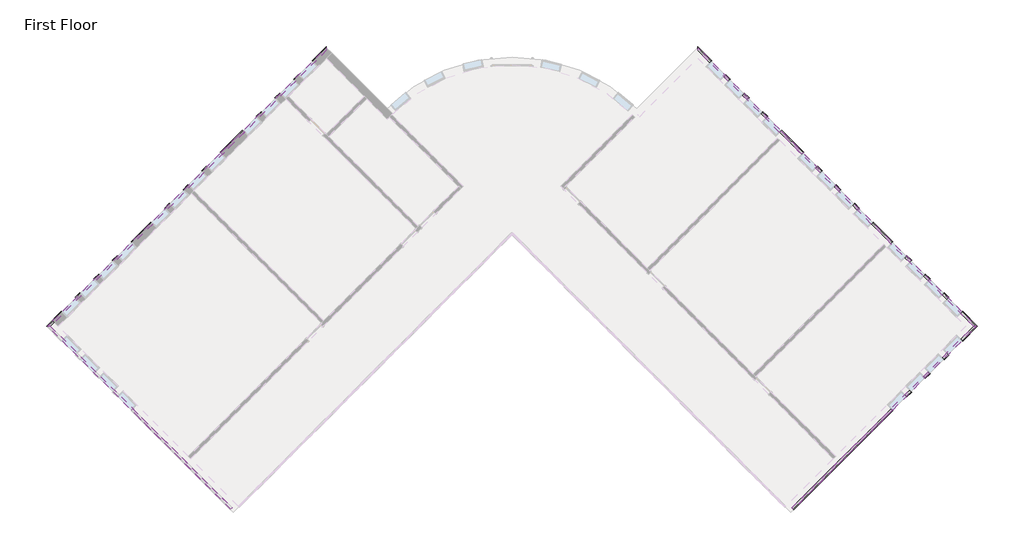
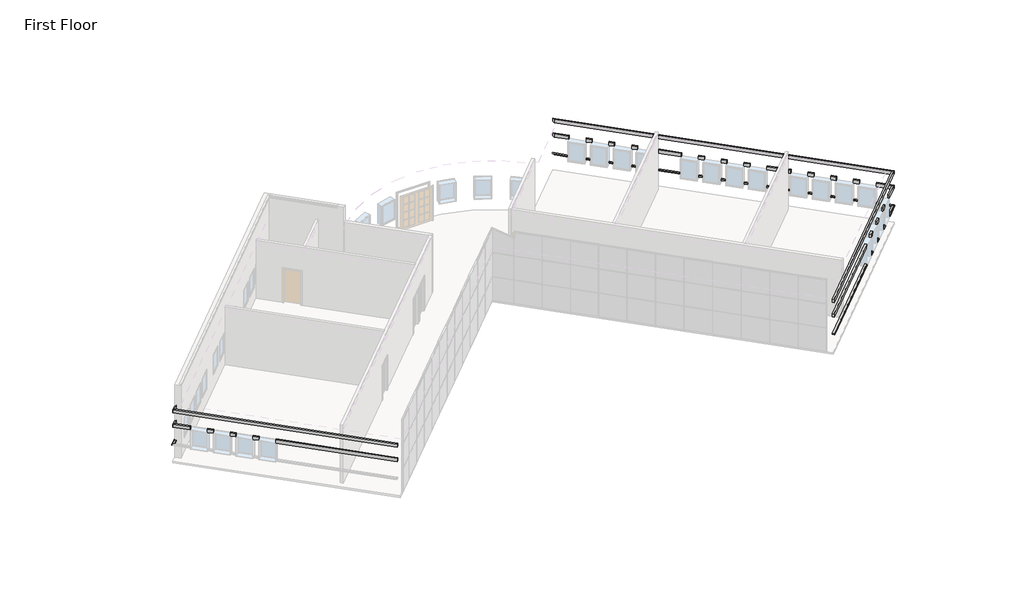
# One storey, part 5 of 5: 11 proxies.
"""IFC4 building model written with IfcOpenShell, lengths in millimetres."""

from ifc_helpers import new_model, si_unit, frame, origin, place, context, project, spatial, polyline, outline, extrude, faceted_brep, element, save

model = new_model("IFC4")

# Units and contexts
model_context = context("Model", 3, world=origin())
ifc_project = project(units=[si_unit("LENGTHUNIT", "METRE", prefix="MILLI")], contexts=[model_context])

# Site, building, storey
site = spatial("IfcSite", under=ifc_project)
building = spatial("IfcBuilding", under=site)
storey = spatial("IfcBuildingStorey", under=building, Name="First Floor", Elevation=0.0)

# Proxies
placement = place(None, origin())
element("IfcBuildingElementProxy", 1, Name="Wall Sweeps", at=placement, inside=storey, context=model_context, shape_type="Brep", body=[
    faceted_brep([(5753.0175119, 11443.3655905, 1085.85), (5753.0175119, 11573.5793042, 1085.85), (5753.0175119, 11622.9707129, 1041.4), (5753.0175119, 11622.9707129, 1016.0), (5753.0175119, 11443.3655905, 1016.0), (6317.415551, 10878.9675514, 1085.85), (6317.415551, 10878.9675514, 1016.0), (6382.5224079, 10944.0744083, 1016.0), (6407.2181122, 10968.7701126, 1016.0), (6407.2181122, 10968.7701126, 1041.4), (6382.5224079, 10944.0744083, 1085.85)], [[[0, 1, 2, 3, 4]], [[5, 6, 7, 8, 9, 10]], [[1, 0, 5, 10]], [[2, 1, 10, 9]], [[3, 2, 9, 8]], [[4, 3, 8, 7, 6]], [[0, 4, 6, 5]]]),
    faceted_brep([(6963.9939917, 10232.3891107, 1085.85), (7029.1008486, 10297.4959676, 1085.85), (7053.7965529, 10322.1916719, 1041.4), (7053.7965529, 10322.1916719, 1016.0), (7029.1008486, 10297.4959676, 1016.0), (6963.9939917, 10232.3891107, 1016.0), (7179.5201386, 10016.8629638, 1085.85), (7179.5201386, 10016.8629638, 1016.0), (7244.6269955, 10081.9698207, 1016.0), (7269.3226998, 10106.665525, 1016.0), (7269.3226998, 10106.665525, 1041.4), (7244.6269955, 10081.9698207, 1085.85)], [[[0, 1, 2, 3, 4, 5]], [[6, 7, 8, 9, 10, 11]], [[1, 0, 6, 11]], [[2, 1, 11, 10]], [[3, 2, 10, 9]], [[5, 4, 3, 9, 8, 7]], [[0, 5, 7, 6]]]),
    faceted_brep([(7826.0985793, 9370.2845231, 1085.85), (7891.2054362, 9435.39138, 1085.85), (7915.9011405, 9460.0870843, 1041.4), (7915.9011405, 9460.0870843, 1016.0), (7891.2054362, 9435.39138, 1016.0), (7826.0985793, 9370.2845231, 1016.0), (8041.6247262, 9154.7583762, 1085.85), (8041.6247262, 9154.7583762, 1016.0), (8106.7315831, 9219.8652331, 1016.0), (8131.4272874, 9244.5609374, 1016.0), (8131.4272874, 9244.5609374, 1041.4), (8106.7315831, 9219.8652331, 1085.85)], [[[0, 1, 2, 3, 4, 5]], [[6, 7, 8, 9, 10, 11]], [[1, 0, 6, 11]], [[2, 1, 11, 10]], [[3, 2, 10, 9]], [[5, 4, 3, 9, 8, 7]], [[0, 5, 7, 6]]]),
    faceted_brep([(8688.2031669, 8508.1799355, 1085.85), (8753.3100238, 8573.2867923, 1085.85), (8778.0057282, 8597.9824967, 1041.4), (8778.0057282, 8597.9824967, 1016.0), (8753.3100238, 8573.2867923, 1016.0), (8688.2031669, 8508.1799355, 1016.0), (8903.7293139, 8292.6537886, 1085.85), (8903.7293139, 8292.6537886, 1016.0), (8968.8361707, 8357.7606454, 1016.0), (8993.5318751, 8382.4563498, 1016.0), (8993.5318751, 8382.4563498, 1041.4), (8968.8361707, 8357.7606454, 1085.85)], [[[0, 1, 2, 3, 4, 5]], [[6, 7, 8, 9, 10, 11]], [[1, 0, 6, 11]], [[2, 1, 11, 10]], [[3, 2, 10, 9]], [[5, 4, 3, 9, 8, 7]], [[0, 5, 7, 6]]]),
    faceted_brep([(9550.3077546, 7646.0753478, 1085.85), (9615.4146114, 7711.1822047, 1085.85), (9640.1103158, 7735.877909, 1041.4), (9640.1103158, 7735.877909, 1016.0), (9615.4146114, 7711.1822047, 1016.0), (9550.3077546, 7646.0753478, 1016.0), (10574.7639411, 6621.6191613, 1085.85), (10574.7639411, 6621.6191613, 1016.0), (10639.870798, 6686.7260182, 1016.0), (10664.5665023, 6711.4217225, 1016.0), (10664.5665023, 6711.4217225, 1041.4), (10639.870798, 6686.7260182, 1085.85)], [[[0, 1, 2, 3, 4, 5]], [[6, 7, 8, 9, 10, 11]], [[1, 0, 6, 11]], [[2, 1, 11, 10]], [[3, 2, 10, 9]], [[5, 4, 3, 9, 8, 7]], [[0, 5, 7, 6]]]),
    faceted_brep([(11221.3423818, 5975.0407206, 1085.85), (11286.4492387, 6040.1475775, 1085.85), (11311.144943, 6064.8432818, 1041.4), (11311.144943, 6064.8432818, 1016.0), (11286.4492387, 6040.1475775, 1016.0), (11221.3423818, 5975.0407206, 1016.0), (11436.8685287, 5759.5145737, 1085.85), (11436.8685287, 5759.5145737, 1016.0), (11501.9753856, 5824.6214306, 1016.0), (11526.6710899, 5849.3171349, 1016.0), (11526.6710899, 5849.3171349, 1041.4), (11501.9753856, 5824.6214306, 1085.85)], [[[0, 1, 2, 3, 4, 5]], [[6, 7, 8, 9, 10, 11]], [[1, 0, 6, 11]], [[2, 1, 11, 10]], [[3, 2, 10, 9]], [[5, 4, 3, 9, 8, 7]], [[0, 5, 7, 6]]]),
    faceted_brep([(12083.4469694, 5112.936133, 1085.85), (12148.5538263, 5178.0429899, 1085.85), (12173.2495306, 5202.7386942, 1041.4), (12173.2495306, 5202.7386942, 1016.0), (12148.5538263, 5178.0429899, 1016.0), (12083.4469694, 5112.936133, 1016.0), (12298.9731163, 4897.4099861, 1085.85), (12298.9731163, 4897.4099861, 1016.0), (12364.0799732, 4962.516843, 1016.0), (12388.7756775, 4987.2125473, 1016.0), (12388.7756775, 4987.2125473, 1041.4), (12364.0799732, 4962.516843, 1085.85)], [[[0, 1, 2, 3, 4, 5]], [[6, 7, 8, 9, 10, 11]], [[1, 0, 6, 11]], [[2, 1, 11, 10]], [[3, 2, 10, 9]], [[5, 4, 3, 9, 8, 7]], [[0, 5, 7, 6]]]),
    faceted_brep([(12945.551557, 4250.8315454, 1085.85), (13010.6584139, 4315.9384023, 1085.85), (13035.3541182, 4340.6341066, 1041.4), (13035.3541182, 4340.6341066, 1016.0), (13010.6584139, 4315.9384023, 1016.0), (12945.551557, 4250.8315454, 1016.0), (13161.0777039, 4035.3053985, 1085.85), (13161.0777039, 4035.3053985, 1016.0), (13226.1845608, 4100.4122553, 1016.0), (13250.8802652, 4125.1079597, 1016.0), (13250.8802652, 4125.1079597, 1041.4), (13226.1845608, 4100.4122553, 1085.85)], [[[0, 1, 2, 3, 4, 5]], [[6, 7, 8, 9, 10, 11]], [[1, 0, 6, 11]], [[2, 1, 11, 10]], [[3, 2, 10, 9]], [[5, 4, 3, 9, 8, 7]], [[0, 5, 7, 6]]]),
    faceted_brep([(13807.6561447, 3388.7269578, 1085.85), (13872.7630015, 3453.8338146, 1085.85), (13897.4587059, 3478.529519, 1041.4), (13897.4587059, 3478.529519, 1016.0), (13872.7630015, 3453.8338146, 1016.0), (13807.6561447, 3388.7269578, 1016.0), (14723.1708449, 2473.2122576, 1085.85), (14723.1708449, 2473.2122576, 1016.0), (14788.2777017, 2538.3191144, 1016.0), (14812.9734061, 2563.0148188, 1016.0), (14812.9734061, 2563.0148188, 1041.4), (14788.2777017, 2538.3191144, 1085.85)], [[[0, 1, 2, 3, 4, 5]], [[6, 7, 8, 9, 10, 11]], [[1, 0, 6, 11]], [[2, 1, 11, 10]], [[3, 2, 10, 9]], [[5, 4, 3, 9, 8, 7]], [[0, 5, 7, 6]]]),
    faceted_brep([(15369.7492856, 1826.6338168, 1085.85), (15434.8561424, 1891.7406737, 1085.85), (15459.5518468, 1916.4363781, 1041.4), (15459.5518468, 1916.4363781, 1016.0), (15434.8561424, 1891.7406737, 1016.0), (15369.7492856, 1826.6338168, 1016.0), (15585.2754325, 1611.1076699, 1085.85), (15585.2754325, 1611.1076699, 1016.0), (15650.3822894, 1676.2145268, 1016.0), (15675.0779937, 1700.9102311, 1016.0), (15675.0779937, 1700.9102311, 1041.4), (15650.3822894, 1676.2145268, 1085.85)], [[[0, 1, 2, 3, 4, 5]], [[6, 7, 8, 9, 10, 11]], [[1, 0, 6, 11]], [[2, 1, 11, 10]], [[3, 2, 10, 9]], [[5, 4, 3, 9, 8, 7]], [[0, 5, 7, 6]]]),
    faceted_brep([(16231.8538732, 964.5292292, 1085.85), (16296.9607301, 1029.6360861, 1085.85), (16321.6564344, 1054.3317904, 1041.4), (16321.6564344, 1054.3317904, 1016.0), (16296.9607301, 1029.6360861, 1016.0), (16231.8538732, 964.5292292, 1016.0), (16447.3800201, 749.0030823, 1085.85), (16447.3800201, 749.0030823, 1016.0), (16512.486877, 814.1099392, 1016.0), (16537.1825813, 838.8056435, 1016.0), (16537.1825813, 838.8056435, 1041.4), (16512.486877, 814.1099392, 1085.85)], [[[0, 1, 2, 3, 4, 5]], [[6, 7, 8, 9, 10, 11]], [[1, 0, 6, 11]], [[2, 1, 11, 10]], [[3, 2, 10, 9]], [[5, 4, 3, 9, 8, 7]], [[0, 5, 7, 6]]]),
    faceted_brep([(17093.9584608, 102.4246416, 1085.85), (17159.0653177, 167.5314985, 1085.85), (17183.761022, 192.2272028, 1041.4), (17183.761022, 192.2272028, 1016.0), (17159.0653177, 167.5314985, 1016.0), (17093.9584608, 102.4246416, 1016.0), (17309.4846077, -113.1015053, 1085.85), (17309.4846077, -113.1015053, 1016.0), (17374.5914646, -47.9946484, 1016.0), (17399.2871689, -23.2989441, 1016.0), (17399.2871689, -23.2989441, 1041.4), (17374.5914646, -47.9946484, 1085.85)], [[[0, 1, 2, 3, 4, 5]], [[6, 7, 8, 9, 10, 11]], [[1, 0, 6, 11]], [[2, 1, 11, 10]], [[3, 2, 10, 9]], [[5, 4, 3, 9, 8, 7]], [[0, 5, 7, 6]]]),
    faceted_brep([(17956.0630484, -759.679946, 1085.85), (18021.1699053, -694.5730891, 1085.85), (18045.8656096, -669.8773848, 1041.4), (18045.8656096, -669.8773848, 1016.0), (18021.1699053, -694.5730891, 1016.0), (17956.0630484, -759.679946, 1016.0), (18554.3726125, -1357.9895101, 1085.85), (18554.3726125, -1357.9895101, 1016.0), (18733.9777349, -1357.9895101, 1016.0), (18733.9777349, -1357.9895101, 1041.4), (18684.5863263, -1357.9895101, 1085.85)], [[[0, 1, 2, 3, 4, 5]], [[6, 7, 8, 9, 10]], [[1, 0, 6, 10]], [[2, 1, 10, 9]], [[3, 2, 9, 8]], [[5, 4, 3, 8, 7]], [[0, 5, 7, 6]]]),
])
element("IfcBuildingElementProxy", 2, Name="Wall Sweeps", at=placement, inside=storey, context=model_context, shape_type="Brep", body=[
    faceted_brep([(5753.0175119, 11573.5793042, 2336.8), (5753.0175119, 11573.5793042, 2133.6), (5753.0175119, 11443.3655905, 2133.6), (5753.0175119, 11443.3655905, 2336.8), (6382.5224079, 10944.0744083, 2336.8), (6317.415551, 10878.9675514, 2336.8), (6317.415551, 10878.9675514, 2133.6), (6382.5224079, 10944.0744083, 2133.6), (6002.2196193, 11324.3771969, 2336.8), (6002.2196193, 11324.3771969, 2133.6)], [[[0, 1, 2, 3]], [[4, 5, 6, 7]], [[1, 0, 8, 4, 7, 9]], [[2, 1, 9, 7, 6]], [[3, 2, 6, 5]], [[0, 3, 5, 4, 8]]]),
    faceted_brep([(7029.1008486, 10297.4959676, 2336.8), (7029.1008486, 10297.4959676, 2133.6), (6963.9939917, 10232.3891107, 2133.6), (6963.9939917, 10232.3891107, 2336.8), (7244.6269955, 10081.9698207, 2336.8), (7179.5201386, 10016.8629638, 2336.8), (7179.5201386, 10016.8629638, 2133.6), (7244.6269955, 10081.9698207, 2133.6)], [[[0, 1, 2, 3]], [[4, 5, 6, 7]], [[1, 0, 4, 7]], [[2, 1, 7, 6]], [[3, 2, 6, 5]], [[0, 3, 5, 4]]]),
    faceted_brep([(7891.2054362, 9435.39138, 2336.8), (7891.2054362, 9435.39138, 2133.6), (7826.0985793, 9370.2845231, 2133.6), (7826.0985793, 9370.2845231, 2336.8), (8106.7315831, 9219.8652331, 2336.8), (8041.6247262, 9154.7583762, 2336.8), (8041.6247262, 9154.7583762, 2133.6), (8106.7315831, 9219.8652331, 2133.6)], [[[0, 1, 2, 3]], [[4, 5, 6, 7]], [[1, 0, 4, 7]], [[2, 1, 7, 6]], [[3, 2, 6, 5]], [[0, 3, 5, 4]]]),
    faceted_brep([(8753.3100238, 8573.2867923, 2336.8), (8753.3100238, 8573.2867923, 2133.6), (8688.2031669, 8508.1799355, 2133.6), (8688.2031669, 8508.1799355, 2336.8), (8968.8361707, 8357.7606454, 2336.8), (8903.7293139, 8292.6537886, 2336.8), (8903.7293139, 8292.6537886, 2133.6), (8968.8361707, 8357.7606454, 2133.6)], [[[0, 1, 2, 3]], [[4, 5, 6, 7]], [[1, 0, 4, 7]], [[2, 1, 7, 6]], [[3, 2, 6, 5]], [[0, 3, 5, 4]]]),
    faceted_brep([(9615.4146114, 7711.1822047, 2336.8), (9615.4146114, 7711.1822047, 2133.6), (9550.3077546, 7646.0753478, 2133.6), (9550.3077546, 7646.0753478, 2336.8), (10639.870798, 6686.7260182, 2336.8), (10574.7639411, 6621.6191613, 2336.8), (10574.7639411, 6621.6191613, 2133.6), (10639.870798, 6686.7260182, 2133.6)], [[[0, 1, 2, 3]], [[4, 5, 6, 7]], [[1, 0, 4, 7]], [[2, 1, 7, 6]], [[3, 2, 6, 5]], [[0, 3, 5, 4]]]),
    faceted_brep([(11286.4492387, 6040.1475775, 2336.8), (11286.4492387, 6040.1475775, 2133.6), (11221.3423818, 5975.0407206, 2133.6), (11221.3423818, 5975.0407206, 2336.8), (11501.9753856, 5824.6214306, 2336.8), (11436.8685287, 5759.5145737, 2336.8), (11436.8685287, 5759.5145737, 2133.6), (11501.9753856, 5824.6214306, 2133.6)], [[[0, 1, 2, 3]], [[4, 5, 6, 7]], [[1, 0, 4, 7]], [[2, 1, 7, 6]], [[3, 2, 6, 5]], [[0, 3, 5, 4]]]),
    faceted_brep([(12148.5538263, 5178.0429899, 2336.8), (12148.5538263, 5178.0429899, 2133.6), (12083.4469694, 5112.936133, 2133.6), (12083.4469694, 5112.936133, 2336.8), (12364.0799732, 4962.516843, 2336.8), (12298.9731163, 4897.4099861, 2336.8), (12298.9731163, 4897.4099861, 2133.6), (12364.0799732, 4962.516843, 2133.6)], [[[0, 1, 2, 3]], [[4, 5, 6, 7]], [[1, 0, 4, 7]], [[2, 1, 7, 6]], [[3, 2, 6, 5]], [[0, 3, 5, 4]]]),
    faceted_brep([(13010.6584139, 4315.9384023, 2336.8), (13010.6584139, 4315.9384023, 2133.6), (12945.551557, 4250.8315454, 2133.6), (12945.551557, 4250.8315454, 2336.8), (13226.1845608, 4100.4122553, 2336.8), (13161.0777039, 4035.3053985, 2336.8), (13161.0777039, 4035.3053985, 2133.6), (13226.1845608, 4100.4122553, 2133.6)], [[[0, 1, 2, 3]], [[4, 5, 6, 7]], [[1, 0, 4, 7]], [[2, 1, 7, 6]], [[3, 2, 6, 5]], [[0, 3, 5, 4]]]),
    faceted_brep([(13872.7630015, 3453.8338146, 2336.8), (13872.7630015, 3453.8338146, 2133.6), (13807.6561447, 3388.7269578, 2133.6), (13807.6561447, 3388.7269578, 2336.8), (14788.2777017, 2538.3191144, 2336.8), (14723.1708449, 2473.2122576, 2336.8), (14723.1708449, 2473.2122576, 2133.6), (14788.2777017, 2538.3191144, 2133.6)], [[[0, 1, 2, 3]], [[4, 5, 6, 7]], [[1, 0, 4, 7]], [[2, 1, 7, 6]], [[3, 2, 6, 5]], [[0, 3, 5, 4]]]),
    faceted_brep([(15434.8561424, 1891.7406737, 2336.8), (15434.8561424, 1891.7406737, 2133.6), (15369.7492856, 1826.6338168, 2133.6), (15369.7492856, 1826.6338168, 2336.8), (15650.3822894, 1676.2145268, 2336.8), (15585.2754325, 1611.1076699, 2336.8), (15585.2754325, 1611.1076699, 2133.6), (15650.3822894, 1676.2145268, 2133.6)], [[[0, 1, 2, 3]], [[4, 5, 6, 7]], [[1, 0, 4, 7]], [[2, 1, 7, 6]], [[3, 2, 6, 5]], [[0, 3, 5, 4]]]),
    faceted_brep([(16296.9607301, 1029.6360861, 2336.8), (16296.9607301, 1029.6360861, 2133.6), (16231.8538732, 964.5292292, 2133.6), (16231.8538732, 964.5292292, 2336.8), (16512.486877, 814.1099392, 2336.8), (16447.3800201, 749.0030823, 2336.8), (16447.3800201, 749.0030823, 2133.6), (16512.486877, 814.1099392, 2133.6)], [[[0, 1, 2, 3]], [[4, 5, 6, 7]], [[1, 0, 4, 7]], [[2, 1, 7, 6]], [[3, 2, 6, 5]], [[0, 3, 5, 4]]]),
    faceted_brep([(17159.0653177, 167.5314985, 2336.8), (17159.0653177, 167.5314985, 2133.6), (17093.9584608, 102.4246416, 2133.6), (17093.9584608, 102.4246416, 2336.8), (17374.5914646, -47.9946484, 2336.8), (17309.4846077, -113.1015053, 2336.8), (17309.4846077, -113.1015053, 2133.6), (17374.5914646, -47.9946484, 2133.6)], [[[0, 1, 2, 3]], [[4, 5, 6, 7]], [[1, 0, 4, 7]], [[2, 1, 7, 6]], [[3, 2, 6, 5]], [[0, 3, 5, 4]]]),
    faceted_brep([(18021.1699053, -694.5730891, 2336.8), (18021.1699053, -694.5730891, 2133.6), (17956.0630484, -759.679946, 2133.6), (17956.0630484, -759.679946, 2336.8), (18684.5863263, -1357.9895101, 2336.8), (18554.3726125, -1357.9895101, 2336.8), (18554.3726125, -1357.9895101, 2133.6), (18684.5863263, -1357.9895101, 2133.6)], [[[0, 1, 2, 3]], [[4, 5, 6, 7]], [[1, 0, 4, 7]], [[2, 1, 7, 6]], [[3, 2, 6, 5]], [[0, 3, 5, 4]]]),
])
element("IfcBuildingElementProxy", 3, Name="Wall Sweeps", at=placement, inside=storey, context=model_context, shape_type="Brep", body=[
    faceted_brep([(5753.0175119, 11573.5793042, 3251.2), (5753.0175119, 11573.5793042, 3048.0), (5753.0175119, 11443.3655905, 3048.0), (5753.0175119, 11443.3655905, 3251.2), (18684.5863263, -1357.9895101, 3251.2), (18554.3726125, -1357.9895101, 3251.2), (18554.3726125, -1357.9895101, 3048.0), (18684.5863263, -1357.9895101, 3048.0), (6002.2196193, 11324.3771969, 3251.2), (6002.2196193, 11324.3771969, 3048.0)], [[[0, 1, 2, 3]], [[4, 5, 6, 7]], [[1, 0, 8, 4, 7, 9]], [[2, 1, 9, 7, 6]], [[3, 2, 6, 5]], [[0, 3, 5, 4, 8]]]),
])
element("IfcBuildingElementProxy", 4, Name="Wall Sweeps", at=placement, inside=storey, context=model_context, shape_type="Brep", body=[
    faceted_brep([(18554.3726125, -1357.9895101, 1085.85), (18684.5863263, -1357.9895101, 1085.85), (18733.9777349, -1357.9895101, 1041.4), (18733.9777349, -1357.9895101, 1016.0), (18554.3726125, -1357.9895101, 1016.0), (17956.0630484, -1956.2990742, 1085.85), (17956.0630484, -1956.2990742, 1016.0), (18021.1699053, -2021.405931, 1016.0), (18045.8656096, -2046.1016354, 1016.0), (18045.8656096, -2046.1016354, 1041.4), (18021.1699053, -2021.405931, 1085.85)], [[[0, 1, 2, 3, 4]], [[5, 6, 7, 8, 9, 10]], [[1, 0, 5, 10]], [[2, 1, 10, 9]], [[3, 2, 9, 8]], [[4, 3, 8, 7, 6]], [[0, 4, 6, 5]]]),
    faceted_brep([(17309.4846077, -2602.8775149, 1085.85), (17374.5914646, -2667.9843718, 1085.85), (17399.2871689, -2692.6800761, 1041.4), (17399.2871689, -2692.6800761, 1016.0), (17374.5914646, -2667.9843718, 1016.0), (17309.4846077, -2602.8775149, 1016.0), (17093.9584608, -2818.4036618, 1085.85), (17093.9584608, -2818.4036618, 1016.0), (17159.0653177, -2883.5105187, 1016.0), (17183.761022, -2908.206223, 1016.0), (17183.761022, -2908.206223, 1041.4), (17159.0653177, -2883.5105187, 1085.85)], [[[0, 1, 2, 3, 4, 5]], [[6, 7, 8, 9, 10, 11]], [[1, 0, 6, 11]], [[2, 1, 11, 10]], [[3, 2, 10, 9]], [[5, 4, 3, 9, 8, 7]], [[0, 5, 7, 6]]]),
    faceted_brep([(16447.3800201, -3464.9821025, 1085.85), (16512.486877, -3530.0889594, 1085.85), (16537.1825813, -3554.7846637, 1041.4), (16537.1825813, -3554.7846637, 1016.0), (16512.486877, -3530.0889594, 1016.0), (16447.3800201, -3464.9821025, 1016.0), (16231.8538732, -3680.5082494, 1085.85), (16231.8538732, -3680.5082494, 1016.0), (16296.9607301, -3745.6151063, 1016.0), (16321.6564344, -3770.3108106, 1016.0), (16321.6564344, -3770.3108106, 1041.4), (16296.9607301, -3745.6151063, 1085.85)], [[[0, 1, 2, 3, 4, 5]], [[6, 7, 8, 9, 10, 11]], [[1, 0, 6, 11]], [[2, 1, 11, 10]], [[3, 2, 10, 9]], [[5, 4, 3, 9, 8, 7]], [[0, 5, 7, 6]]]),
    faceted_brep([(15585.2754325, -4327.0866901, 1085.85), (15650.3822894, -4392.193547, 1085.85), (15675.0779937, -4416.8892513, 1041.4), (15675.0779937, -4416.8892513, 1016.0), (15650.3822894, -4392.193547, 1016.0), (15585.2754325, -4327.0866901, 1016.0), (15369.7492856, -4542.612837, 1085.85), (15369.7492856, -4542.612837, 1016.0), (15434.8561424, -4607.7196939, 1016.0), (15459.5518468, -4632.4153982, 1016.0), (15459.5518468, -4632.4153982, 1041.4), (15434.8561424, -4607.7196939, 1085.85)], [[[0, 1, 2, 3, 4, 5]], [[6, 7, 8, 9, 10, 11]], [[1, 0, 6, 11]], [[2, 1, 11, 10]], [[3, 2, 10, 9]], [[5, 4, 3, 9, 8, 7]], [[0, 5, 7, 6]]]),
    faceted_brep([(14723.1708449, -5189.1912777, 1085.85), (14788.2777017, -5254.2981346, 1085.85), (14812.9734061, -5278.993839, 1041.4), (14812.9734061, -5278.993839, 1016.0), (14788.2777017, -5254.2981346, 1016.0), (14723.1708449, -5189.1912777, 1016.0), (10123.0346468, -9789.3274758, 1085.85), (10123.0346468, -9789.3274758, 1016.0), (10188.1415037, -9854.4343326, 1016.0), (10212.837208, -9879.130037, 1016.0), (10212.837208, -9879.130037, 1041.4), (10188.1415037, -9854.4343326, 1085.85)], [[[0, 1, 2, 3, 4, 5]], [[6, 7, 8, 9, 10, 11]], [[1, 0, 6, 11]], [[2, 1, 11, 10]], [[3, 2, 10, 9]], [[5, 4, 3, 9, 8, 7]], [[0, 5, 7, 6]]]),
])
element("IfcBuildingElementProxy", 5, Name="Wall Sweeps", at=placement, inside=storey, context=model_context, shape_type="Brep", body=[
    faceted_brep([(18684.5863263, -1357.9895101, 2336.8), (18684.5863263, -1357.9895101, 2133.6), (18554.3726125, -1357.9895101, 2133.6), (18554.3726125, -1357.9895101, 2336.8), (18021.1699053, -2021.405931, 2336.8), (17956.0630484, -1956.2990742, 2336.8), (17956.0630484, -1956.2990742, 2133.6), (18021.1699053, -2021.405931, 2133.6), (18435.3842189, -1607.1916175, 2336.8), (18435.3842189, -1607.1916175, 2133.6)], [[[0, 1, 2, 3]], [[4, 5, 6, 7]], [[1, 0, 8, 4, 7, 9]], [[2, 1, 9, 7, 6]], [[3, 2, 6, 5]], [[0, 3, 5, 4, 8]]]),
    faceted_brep([(17374.5914646, -2667.9843718, 2336.8), (17374.5914646, -2667.9843718, 2133.6), (17309.4846077, -2602.8775149, 2133.6), (17309.4846077, -2602.8775149, 2336.8), (17159.0653177, -2883.5105187, 2336.8), (17093.9584608, -2818.4036618, 2336.8), (17093.9584608, -2818.4036618, 2133.6), (17159.0653177, -2883.5105187, 2133.6)], [[[0, 1, 2, 3]], [[4, 5, 6, 7]], [[1, 0, 4, 7]], [[2, 1, 7, 6]], [[3, 2, 6, 5]], [[0, 3, 5, 4]]]),
    faceted_brep([(16512.486877, -3530.0889594, 2336.8), (16512.486877, -3530.0889594, 2133.6), (16447.3800201, -3464.9821025, 2133.6), (16447.3800201, -3464.9821025, 2336.8), (16296.9607301, -3745.6151063, 2336.8), (16231.8538732, -3680.5082494, 2336.8), (16231.8538732, -3680.5082494, 2133.6), (16296.9607301, -3745.6151063, 2133.6)], [[[0, 1, 2, 3]], [[4, 5, 6, 7]], [[1, 0, 4, 7]], [[2, 1, 7, 6]], [[3, 2, 6, 5]], [[0, 3, 5, 4]]]),
    faceted_brep([(15650.3822894, -4392.193547, 2336.8), (15650.3822894, -4392.193547, 2133.6), (15585.2754325, -4327.0866901, 2133.6), (15585.2754325, -4327.0866901, 2336.8), (15434.8561424, -4607.7196939, 2336.8), (15369.7492856, -4542.612837, 2336.8), (15369.7492856, -4542.612837, 2133.6), (15434.8561424, -4607.7196939, 2133.6)], [[[0, 1, 2, 3]], [[4, 5, 6, 7]], [[1, 0, 4, 7]], [[2, 1, 7, 6]], [[3, 2, 6, 5]], [[0, 3, 5, 4]]]),
    faceted_brep([(14788.2777017, -5254.2981346, 2336.8), (14788.2777017, -5254.2981346, 2133.6), (14723.1708449, -5189.1912777, 2133.6), (14723.1708449, -5189.1912777, 2336.8), (10188.1415037, -9854.4343326, 2336.8), (10123.0346468, -9789.3274758, 2336.8), (10123.0346468, -9789.3274758, 2133.6), (10188.1415037, -9854.4343326, 2133.6)], [[[0, 1, 2, 3]], [[4, 5, 6, 7]], [[1, 0, 4, 7]], [[2, 1, 7, 6]], [[3, 2, 6, 5]], [[0, 3, 5, 4]]]),
])
element("IfcBuildingElementProxy", 6, Name="Wall Sweeps", at=placement, inside=storey, context=model_context, shape_type="Brep", body=[
    faceted_brep([(18684.5863263, -1357.9895101, 3251.2), (18684.5863263, -1357.9895101, 3048.0), (18554.3726125, -1357.9895101, 3048.0), (18554.3726125, -1357.9895101, 3251.2), (10188.1415037, -9854.4343326, 3251.2), (10123.0346468, -9789.3274758, 3251.2), (10123.0346468, -9789.3274758, 3048.0), (10188.1415037, -9854.4343326, 3048.0), (18435.3842189, -1607.1916175, 3251.2), (18435.3842189, -1607.1916175, 3048.0)], [[[0, 1, 2, 3]], [[4, 5, 6, 7]], [[1, 0, 8, 4, 7, 9]], [[2, 1, 9, 7, 6]], [[3, 2, 6, 5]], [[0, 3, 5, 4, 8]]]),
])
element("IfcBuildingElementProxy", 7, Name="Wall Sweeps", at=placement, inside=storey, context=model_context, shape_type="SweptSolid", body=[
    extrude(outline(polyline([(-15859.0913754, -9789.3274758), (-15924.1982323, -9854.4343326), (-20524.3344303, -5254.2981346), (-20459.2275735, -5189.1912777), (-15859.0913754, -9789.3274758)])), frame((0.0, 0.0, 2133.6), z_axis=(0.0, 0.0, 1.0), x_axis=(1.0, 0.0, 0.0)), (0.0, 0.0, 1.0), 203.2),
    extrude(outline(polyline([(-21105.8060142, -4542.612837), (-21170.9128711, -4607.7196939), (-21386.439018, -4392.193547), (-21321.3321611, -4327.0866901), (-21105.8060142, -4542.612837)])), frame((0.0, 0.0, 2133.6), z_axis=(0.0, 0.0, 1.0), x_axis=(1.0, 0.0, 0.0)), (0.0, 0.0, 1.0), 203.2),
    extrude(outline(polyline([(-21967.9106018, -3680.5082494), (-22033.0174587, -3745.6151063), (-22248.5436056, -3530.0889594), (-22183.4367487, -3464.9821025), (-21967.9106018, -3680.5082494)])), frame((0.0, 0.0, 2133.6), z_axis=(0.0, 0.0, 1.0), x_axis=(1.0, 0.0, 0.0)), (0.0, 0.0, 1.0), 203.2),
    extrude(outline(polyline([(-22830.0151894, -2818.4036618), (-22895.1220463, -2883.5105187), (-23110.6481932, -2667.9843718), (-23045.5413363, -2602.8775149), (-22830.0151894, -2818.4036618)])), frame((0.0, 0.0, 2133.6), z_axis=(0.0, 0.0, 1.0), x_axis=(1.0, 0.0, 0.0)), (0.0, 0.0, 1.0), 203.2),
    extrude(outline(polyline([(-23692.119777, -1956.2990742), (-23757.2266339, -2021.405931), (-24420.6430549, -1357.9895101), (-24290.4293411, -1357.9895101), (-23692.119777, -1956.2990742)])), frame((0.0, 0.0, 2133.6), z_axis=(0.0, 0.0, 1.0), x_axis=(1.0, 0.0, 0.0)), (0.0, 0.0, 1.0), 203.2),
])
element("IfcBuildingElementProxy", 8, Name="Wall Sweeps", at=placement, inside=storey, context=model_context, shape_type="SweptSolid", body=[
    extrude(outline(polyline([(-15859.0913754, -9789.3274758), (-15924.1982323, -9854.4343326), (-24420.6430549, -1357.9895101), (-24290.4293411, -1357.9895101), (-15859.0913754, -9789.3274758)])), frame((0.0, 0.0, 3048.0), z_axis=(0.0, 0.0, 1.0), x_axis=(1.0, 0.0, 0.0)), (0.0, 0.0, 1.0), 203.2),
])
element("IfcBuildingElementProxy", 9, Name="Wall Sweeps", at=placement, inside=storey, context=model_context, shape_type="Brep", body=[
    faceted_brep([(-24290.4293411, -1357.9895101, 1085.85), (-24420.6430549, -1357.9895101, 1085.85), (-24470.0344635, -1357.9895101, 1041.4), (-24470.0344635, -1357.9895101, 1016.0), (-24290.4293411, -1357.9895101, 1016.0), (-23692.119777, -759.679946, 1085.85), (-23692.119777, -759.679946, 1016.0), (-23757.2266339, -694.5730891, 1016.0), (-23781.9223383, -669.8773848, 1016.0), (-23781.9223383, -669.8773848, 1041.4), (-23757.2266339, -694.5730891, 1085.85)], [[[0, 1, 2, 3, 4]], [[5, 6, 7, 8, 9, 10]], [[1, 0, 5, 10]], [[2, 1, 10, 9]], [[3, 2, 9, 8]], [[4, 3, 8, 7, 6]], [[0, 4, 6, 5]]]),
    faceted_brep([(-23045.5413363, -113.1015053, 1085.85), (-23110.6481932, -47.9946484, 1085.85), (-23135.3438975, -23.2989441, 1041.4), (-23135.3438975, -23.2989441, 1016.0), (-23110.6481932, -47.9946484, 1016.0), (-23045.5413363, -113.1015053, 1016.0), (-22830.0151894, 102.4246416, 1085.85), (-22830.0151894, 102.4246416, 1016.0), (-22895.1220463, 167.5314985, 1016.0), (-22919.8177506, 192.2272028, 1016.0), (-22919.8177506, 192.2272028, 1041.4), (-22895.1220463, 167.5314985, 1085.85)], [[[0, 1, 2, 3, 4, 5]], [[6, 7, 8, 9, 10, 11]], [[1, 0, 6, 11]], [[2, 1, 11, 10]], [[3, 2, 10, 9]], [[5, 4, 3, 9, 8, 7]], [[0, 5, 7, 6]]]),
    faceted_brep([(-22183.4367487, 749.0030823, 1085.85), (-22248.5436056, 814.1099392, 1085.85), (-22273.2393099, 838.8056435, 1041.4), (-22273.2393099, 838.8056435, 1016.0), (-22248.5436056, 814.1099392, 1016.0), (-22183.4367487, 749.0030823, 1016.0), (-21967.9106018, 964.5292292, 1085.85), (-21967.9106018, 964.5292292, 1016.0), (-22033.0174587, 1029.6360861, 1016.0), (-22057.713163, 1054.3317904, 1016.0), (-22057.713163, 1054.3317904, 1041.4), (-22033.0174587, 1029.6360861, 1085.85)], [[[0, 1, 2, 3, 4, 5]], [[6, 7, 8, 9, 10, 11]], [[1, 0, 6, 11]], [[2, 1, 11, 10]], [[3, 2, 10, 9]], [[5, 4, 3, 9, 8, 7]], [[0, 5, 7, 6]]]),
    faceted_brep([(-21321.3321611, 1611.1076699, 1085.85), (-21386.439018, 1676.2145268, 1085.85), (-21411.1347223, 1700.9102311, 1041.4), (-21411.1347223, 1700.9102311, 1016.0), (-21386.439018, 1676.2145268, 1016.0), (-21321.3321611, 1611.1076699, 1016.0), (-21105.8060142, 1826.6338168, 1085.85), (-21105.8060142, 1826.6338168, 1016.0), (-21170.9128711, 1891.7406737, 1016.0), (-21195.6085754, 1916.4363781, 1016.0), (-21195.6085754, 1916.4363781, 1041.4), (-21170.9128711, 1891.7406737, 1085.85)], [[[0, 1, 2, 3, 4, 5]], [[6, 7, 8, 9, 10, 11]], [[1, 0, 6, 11]], [[2, 1, 11, 10]], [[3, 2, 10, 9]], [[5, 4, 3, 9, 8, 7]], [[0, 5, 7, 6]]]),
    faceted_brep([(-20459.2275735, 2473.2122576, 1085.85), (-20524.3344303, 2538.3191144, 1085.85), (-20549.0301347, 2563.0148188, 1041.4), (-20549.0301347, 2563.0148188, 1016.0), (-20524.3344303, 2538.3191144, 1016.0), (-20459.2275735, 2473.2122576, 1016.0), (-19543.7128733, 3388.7269578, 1085.85), (-19543.7128733, 3388.7269578, 1016.0), (-19608.8197301, 3453.8338146, 1016.0), (-19633.5154345, 3478.529519, 1016.0), (-19633.5154345, 3478.529519, 1041.4), (-19608.8197301, 3453.8338146, 1085.85)], [[[0, 1, 2, 3, 4, 5]], [[6, 7, 8, 9, 10, 11]], [[1, 0, 6, 11]], [[2, 1, 11, 10]], [[3, 2, 10, 9]], [[5, 4, 3, 9, 8, 7]], [[0, 5, 7, 6]]]),
    faceted_brep([(-18897.1344326, 4035.3053985, 1085.85), (-18962.2412894, 4100.4122553, 1085.85), (-18986.9369938, 4125.1079597, 1041.4), (-18986.9369938, 4125.1079597, 1016.0), (-18962.2412894, 4100.4122553, 1016.0), (-18897.1344326, 4035.3053985, 1016.0), (-18681.6082856, 4250.8315454, 1085.85), (-18681.6082856, 4250.8315454, 1016.0), (-18746.7151425, 4315.9384023, 1016.0), (-18771.4108469, 4340.6341066, 1016.0), (-18771.4108469, 4340.6341066, 1041.4), (-18746.7151425, 4315.9384023, 1085.85)], [[[0, 1, 2, 3, 4, 5]], [[6, 7, 8, 9, 10, 11]], [[1, 0, 6, 11]], [[2, 1, 11, 10]], [[3, 2, 10, 9]], [[5, 4, 3, 9, 8, 7]], [[0, 5, 7, 6]]]),
    faceted_brep([(-18035.0298449, 4897.4099861, 1085.85), (-18100.1367018, 4962.516843, 1085.85), (-18124.8324061, 4987.2125473, 1041.4), (-18124.8324061, 4987.2125473, 1016.0), (-18100.1367018, 4962.516843, 1016.0), (-18035.0298449, 4897.4099861, 1016.0), (-17819.503698, 5112.936133, 1085.85), (-17819.503698, 5112.936133, 1016.0), (-17884.6105549, 5178.0429899, 1016.0), (-17909.3062592, 5202.7386942, 1016.0), (-17909.3062592, 5202.7386942, 1041.4), (-17884.6105549, 5178.0429899, 1085.85)], [[[0, 1, 2, 3, 4, 5]], [[6, 7, 8, 9, 10, 11]], [[1, 0, 6, 11]], [[2, 1, 11, 10]], [[3, 2, 10, 9]], [[5, 4, 3, 9, 8, 7]], [[0, 5, 7, 6]]]),
    faceted_brep([(-17172.9252573, 5759.5145737, 1085.85), (-17238.0321142, 5824.6214306, 1085.85), (-17262.7278185, 5849.3171349, 1041.4), (-17262.7278185, 5849.3171349, 1016.0), (-17238.0321142, 5824.6214306, 1016.0), (-17172.9252573, 5759.5145737, 1016.0), (-16957.3991104, 5975.0407206, 1085.85), (-16957.3991104, 5975.0407206, 1016.0), (-17022.5059673, 6040.1475775, 1016.0), (-17047.2016716, 6064.8432818, 1016.0), (-17047.2016716, 6064.8432818, 1041.4), (-17022.5059673, 6040.1475775, 1085.85)], [[[0, 1, 2, 3, 4, 5]], [[6, 7, 8, 9, 10, 11]], [[1, 0, 6, 11]], [[2, 1, 11, 10]], [[3, 2, 10, 9]], [[5, 4, 3, 9, 8, 7]], [[0, 5, 7, 6]]]),
    faceted_brep([(-16310.8206697, 6621.6191613, 1085.85), (-16375.9275266, 6686.7260182, 1085.85), (-16400.6232309, 6711.4217225, 1041.4), (-16400.6232309, 6711.4217225, 1016.0), (-16375.9275266, 6686.7260182, 1016.0), (-16310.8206697, 6621.6191613, 1016.0), (-15286.3644832, 7646.0753478, 1085.85), (-15286.3644832, 7646.0753478, 1016.0), (-15351.4713401, 7711.1822047, 1016.0), (-15376.1670444, 7735.877909, 1016.0), (-15376.1670444, 7735.877909, 1041.4), (-15351.4713401, 7711.1822047, 1085.85)], [[[0, 1, 2, 3, 4, 5]], [[6, 7, 8, 9, 10, 11]], [[1, 0, 6, 11]], [[2, 1, 11, 10]], [[3, 2, 10, 9]], [[5, 4, 3, 9, 8, 7]], [[0, 5, 7, 6]]]),
    faceted_brep([(-14639.7860425, 8292.6537886, 1085.85), (-14704.8928993, 8357.7606454, 1085.85), (-14729.5886037, 8382.4563498, 1041.4), (-14729.5886037, 8382.4563498, 1016.0), (-14704.8928993, 8357.7606454, 1016.0), (-14639.7860425, 8292.6537886, 1016.0), (-14424.2598956, 8508.1799355, 1085.85), (-14424.2598956, 8508.1799355, 1016.0), (-14489.3667524, 8573.2867923, 1016.0), (-14514.0624568, 8597.9824967, 1016.0), (-14514.0624568, 8597.9824967, 1041.4), (-14489.3667524, 8573.2867923, 1085.85)], [[[0, 1, 2, 3, 4, 5]], [[6, 7, 8, 9, 10, 11]], [[1, 0, 6, 11]], [[2, 1, 11, 10]], [[3, 2, 10, 9]], [[5, 4, 3, 9, 8, 7]], [[0, 5, 7, 6]]]),
    faceted_brep([(-13777.6814548, 9154.7583762, 1085.85), (-13842.7883117, 9219.8652331, 1085.85), (-13867.4840161, 9244.5609374, 1041.4), (-13867.4840161, 9244.5609374, 1016.0), (-13842.7883117, 9219.8652331, 1016.0), (-13777.6814548, 9154.7583762, 1016.0), (-13562.1553079, 9370.2845231, 1085.85), (-13562.1553079, 9370.2845231, 1016.0), (-13627.2621648, 9435.39138, 1016.0), (-13651.9578691, 9460.0870843, 1016.0), (-13651.9578691, 9460.0870843, 1041.4), (-13627.2621648, 9435.39138, 1085.85)], [[[0, 1, 2, 3, 4, 5]], [[6, 7, 8, 9, 10, 11]], [[1, 0, 6, 11]], [[2, 1, 11, 10]], [[3, 2, 10, 9]], [[5, 4, 3, 9, 8, 7]], [[0, 5, 7, 6]]]),
    faceted_brep([(-12915.5768672, 10016.8629638, 1085.85), (-12980.6837241, 10081.9698207, 1085.85), (-13005.3794284, 10106.665525, 1041.4), (-13005.3794284, 10106.665525, 1016.0), (-12980.6837241, 10081.9698207, 1016.0), (-12915.5768672, 10016.8629638, 1016.0), (-12700.0507203, 10232.3891107, 1085.85), (-12700.0507203, 10232.3891107, 1016.0), (-12765.1575772, 10297.4959676, 1016.0), (-12789.8532815, 10322.1916719, 1016.0), (-12789.8532815, 10322.1916719, 1041.4), (-12765.1575772, 10297.4959676, 1085.85)], [[[0, 1, 2, 3, 4, 5]], [[6, 7, 8, 9, 10, 11]], [[1, 0, 6, 11]], [[2, 1, 11, 10]], [[3, 2, 10, 9]], [[5, 4, 3, 9, 8, 7]], [[0, 5, 7, 6]]]),
    faceted_brep([(-12053.4722796, 10878.9675514, 1085.85), (-12118.5791365, 10944.0744083, 1085.85), (-12143.2748408, 10968.7701126, 1041.4), (-12143.2748408, 10968.7701126, 1016.0), (-12118.5791365, 10944.0744083, 1016.0), (-12053.4722796, 10878.9675514, 1016.0), (-11489.0742405, 11443.3655905, 1085.85), (-11489.0742405, 11443.3655905, 1016.0), (-11489.0742405, 11622.9707129, 1016.0), (-11489.0742405, 11622.9707129, 1041.4), (-11489.0742405, 11573.5793042, 1085.85)], [[[0, 1, 2, 3, 4, 5]], [[6, 7, 8, 9, 10]], [[1, 0, 6, 10]], [[2, 1, 10, 9]], [[3, 2, 9, 8]], [[5, 4, 3, 8, 7]], [[0, 5, 7, 6]]]),
])
element("IfcBuildingElementProxy", 10, Name="Wall Sweeps", at=placement, inside=storey, context=model_context, shape_type="Brep", body=[
    faceted_brep([(-24420.6430549, -1357.9895101, 2336.8), (-24420.6430549, -1357.9895101, 2133.6), (-24290.4293411, -1357.9895101, 2133.6), (-24290.4293411, -1357.9895101, 2336.8), (-23757.2266339, -694.5730891, 2336.8), (-23692.119777, -759.679946, 2336.8), (-23692.119777, -759.679946, 2133.6), (-23757.2266339, -694.5730891, 2133.6), (-24171.4409475, -1108.7874027, 2336.8), (-24171.4409475, -1108.7874027, 2133.6)], [[[0, 1, 2, 3]], [[4, 5, 6, 7]], [[1, 0, 8, 4, 7, 9]], [[2, 1, 9, 7, 6]], [[3, 2, 6, 5]], [[0, 3, 5, 4, 8]]]),
    faceted_brep([(-23110.6481932, -47.9946484, 2336.8), (-23110.6481932, -47.9946484, 2133.6), (-23045.5413363, -113.1015053, 2133.6), (-23045.5413363, -113.1015053, 2336.8), (-22895.1220463, 167.5314985, 2336.8), (-22830.0151894, 102.4246416, 2336.8), (-22830.0151894, 102.4246416, 2133.6), (-22895.1220463, 167.5314985, 2133.6)], [[[0, 1, 2, 3]], [[4, 5, 6, 7]], [[1, 0, 4, 7]], [[2, 1, 7, 6]], [[3, 2, 6, 5]], [[0, 3, 5, 4]]]),
    faceted_brep([(-22248.5436056, 814.1099392, 2336.8), (-22248.5436056, 814.1099392, 2133.6), (-22183.4367487, 749.0030823, 2133.6), (-22183.4367487, 749.0030823, 2336.8), (-22033.0174587, 1029.6360861, 2336.8), (-21967.9106018, 964.5292292, 2336.8), (-21967.9106018, 964.5292292, 2133.6), (-22033.0174587, 1029.6360861, 2133.6)], [[[0, 1, 2, 3]], [[4, 5, 6, 7]], [[1, 0, 4, 7]], [[2, 1, 7, 6]], [[3, 2, 6, 5]], [[0, 3, 5, 4]]]),
    faceted_brep([(-21386.439018, 1676.2145268, 2336.8), (-21386.439018, 1676.2145268, 2133.6), (-21321.3321611, 1611.1076699, 2133.6), (-21321.3321611, 1611.1076699, 2336.8), (-21170.9128711, 1891.7406737, 2336.8), (-21105.8060142, 1826.6338168, 2336.8), (-21105.8060142, 1826.6338168, 2133.6), (-21170.9128711, 1891.7406737, 2133.6)], [[[0, 1, 2, 3]], [[4, 5, 6, 7]], [[1, 0, 4, 7]], [[2, 1, 7, 6]], [[3, 2, 6, 5]], [[0, 3, 5, 4]]]),
    faceted_brep([(-20524.3344303, 2538.3191144, 2336.8), (-20524.3344303, 2538.3191144, 2133.6), (-20459.2275735, 2473.2122576, 2133.6), (-20459.2275735, 2473.2122576, 2336.8), (-19608.8197301, 3453.8338146, 2336.8), (-19543.7128733, 3388.7269578, 2336.8), (-19543.7128733, 3388.7269578, 2133.6), (-19608.8197301, 3453.8338146, 2133.6)], [[[0, 1, 2, 3]], [[4, 5, 6, 7]], [[1, 0, 4, 7]], [[2, 1, 7, 6]], [[3, 2, 6, 5]], [[0, 3, 5, 4]]]),
    faceted_brep([(-18962.2412894, 4100.4122553, 2336.8), (-18962.2412894, 4100.4122553, 2133.6), (-18897.1344326, 4035.3053985, 2133.6), (-18897.1344326, 4035.3053985, 2336.8), (-18746.7151425, 4315.9384023, 2336.8), (-18681.6082856, 4250.8315454, 2336.8), (-18681.6082856, 4250.8315454, 2133.6), (-18746.7151425, 4315.9384023, 2133.6)], [[[0, 1, 2, 3]], [[4, 5, 6, 7]], [[1, 0, 4, 7]], [[2, 1, 7, 6]], [[3, 2, 6, 5]], [[0, 3, 5, 4]]]),
    faceted_brep([(-18100.1367018, 4962.516843, 2336.8), (-18100.1367018, 4962.516843, 2133.6), (-18035.0298449, 4897.4099861, 2133.6), (-18035.0298449, 4897.4099861, 2336.8), (-17884.6105549, 5178.0429899, 2336.8), (-17819.503698, 5112.936133, 2336.8), (-17819.503698, 5112.936133, 2133.6), (-17884.6105549, 5178.0429899, 2133.6)], [[[0, 1, 2, 3]], [[4, 5, 6, 7]], [[1, 0, 4, 7]], [[2, 1, 7, 6]], [[3, 2, 6, 5]], [[0, 3, 5, 4]]]),
    faceted_brep([(-17238.0321142, 5824.6214306, 2336.8), (-17238.0321142, 5824.6214306, 2133.6), (-17172.9252573, 5759.5145737, 2133.6), (-17172.9252573, 5759.5145737, 2336.8), (-17022.5059673, 6040.1475775, 2336.8), (-16957.3991104, 5975.0407206, 2336.8), (-16957.3991104, 5975.0407206, 2133.6), (-17022.5059673, 6040.1475775, 2133.6)], [[[0, 1, 2, 3]], [[4, 5, 6, 7]], [[1, 0, 4, 7]], [[2, 1, 7, 6]], [[3, 2, 6, 5]], [[0, 3, 5, 4]]]),
    faceted_brep([(-16375.9275266, 6686.7260182, 2336.8), (-16375.9275266, 6686.7260182, 2133.6), (-16310.8206697, 6621.6191613, 2133.6), (-16310.8206697, 6621.6191613, 2336.8), (-15351.4713401, 7711.1822047, 2336.8), (-15286.3644832, 7646.0753478, 2336.8), (-15286.3644832, 7646.0753478, 2133.6), (-15351.4713401, 7711.1822047, 2133.6)], [[[0, 1, 2, 3]], [[4, 5, 6, 7]], [[1, 0, 4, 7]], [[2, 1, 7, 6]], [[3, 2, 6, 5]], [[0, 3, 5, 4]]]),
    faceted_brep([(-14704.8928993, 8357.7606454, 2336.8), (-14704.8928993, 8357.7606454, 2133.6), (-14639.7860425, 8292.6537886, 2133.6), (-14639.7860425, 8292.6537886, 2336.8), (-14489.3667524, 8573.2867923, 2336.8), (-14424.2598956, 8508.1799355, 2336.8), (-14424.2598956, 8508.1799355, 2133.6), (-14489.3667524, 8573.2867923, 2133.6)], [[[0, 1, 2, 3]], [[4, 5, 6, 7]], [[1, 0, 4, 7]], [[2, 1, 7, 6]], [[3, 2, 6, 5]], [[0, 3, 5, 4]]]),
    faceted_brep([(-13842.7883117, 9219.8652331, 2336.8), (-13842.7883117, 9219.8652331, 2133.6), (-13777.6814548, 9154.7583762, 2133.6), (-13777.6814548, 9154.7583762, 2336.8), (-13627.2621648, 9435.39138, 2336.8), (-13562.1553079, 9370.2845231, 2336.8), (-13562.1553079, 9370.2845231, 2133.6), (-13627.2621648, 9435.39138, 2133.6)], [[[0, 1, 2, 3]], [[4, 5, 6, 7]], [[1, 0, 4, 7]], [[2, 1, 7, 6]], [[3, 2, 6, 5]], [[0, 3, 5, 4]]]),
    faceted_brep([(-12980.6837241, 10081.9698207, 2336.8), (-12980.6837241, 10081.9698207, 2133.6), (-12915.5768672, 10016.8629638, 2133.6), (-12915.5768672, 10016.8629638, 2336.8), (-12765.1575772, 10297.4959676, 2336.8), (-12700.0507203, 10232.3891107, 2336.8), (-12700.0507203, 10232.3891107, 2133.6), (-12765.1575772, 10297.4959676, 2133.6)], [[[0, 1, 2, 3]], [[4, 5, 6, 7]], [[1, 0, 4, 7]], [[2, 1, 7, 6]], [[3, 2, 6, 5]], [[0, 3, 5, 4]]]),
    faceted_brep([(-12118.5791365, 10944.0744083, 2336.8), (-12118.5791365, 10944.0744083, 2133.6), (-12053.4722796, 10878.9675514, 2133.6), (-12053.4722796, 10878.9675514, 2336.8), (-11489.0742405, 11573.5793042, 2336.8), (-11489.0742405, 11443.3655905, 2336.8), (-11489.0742405, 11443.3655905, 2133.6), (-11489.0742405, 11573.5793042, 2133.6)], [[[0, 1, 2, 3]], [[4, 5, 6, 7]], [[1, 0, 4, 7]], [[2, 1, 7, 6]], [[3, 2, 6, 5]], [[0, 3, 5, 4]]]),
])
element("IfcBuildingElementProxy", 11, Name="Wall Sweeps", at=placement, inside=storey, context=model_context, shape_type="Brep", body=[
    faceted_brep([(-24420.6430549, -1357.9895101, 3251.2), (-24420.6430549, -1357.9895101, 3048.0), (-24290.4293411, -1357.9895101, 3048.0), (-24290.4293411, -1357.9895101, 3251.2), (-11489.0742405, 11573.5793042, 3251.2), (-11489.0742405, 11443.3655905, 3251.2), (-11489.0742405, 11443.3655905, 3048.0), (-11489.0742405, 11573.5793042, 3048.0), (-24171.4409475, -1108.7874027, 3251.2), (-24171.4409475, -1108.7874027, 3048.0)], [[[0, 1, 2, 3]], [[4, 5, 6, 7]], [[1, 0, 8, 4, 7, 9]], [[2, 1, 9, 7, 6]], [[3, 2, 6, 5]], [[0, 3, 5, 4, 8]]]),
])

save(model, "model.ifc")
